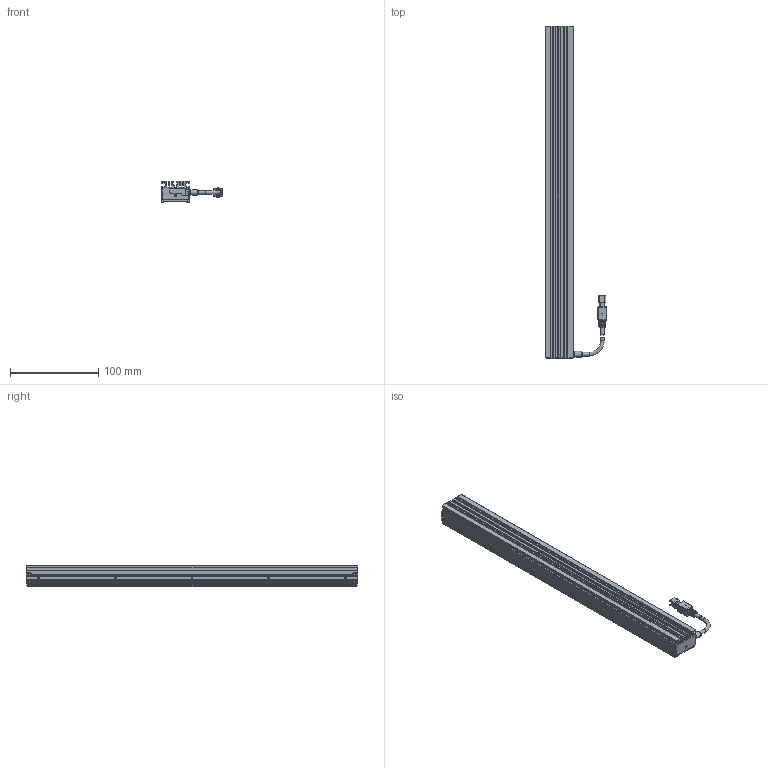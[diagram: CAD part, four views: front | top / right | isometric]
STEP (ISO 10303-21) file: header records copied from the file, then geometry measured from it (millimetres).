
FILE_DESCRIPTION (( 'STEP AP203' ), '1' );
FILE_NAME ('OPT-ULI37632-UV-V1.0 U尨砩芞.STEP', '2024-12-11T02:52:32', ( '' ), ( '' ), 'SwSTEP 2.0', 'SolidWorks 2016', '' );
FILE_SCHEMA (( 'CONFIG_CONTROL_DESIGN' ));
Length unit declared in the file: millimetre
Products named in the file (1): OPT-ULI37632-UV-V1.0 U尨砩芞
Bounding box: 69.6 x 376 x 24 mm (x, y, z)
Volume: 226420.1 mm3; surface area: 93366.1 mm2
Topology: 5 solids, 15 shells, 627 faces, 1610 edges, 1040 vertices
Faces by surface type: plane 434, cylinder 138, cone 30, bspline 17, torus 8
Full cylindrical faces by diameter (mm): 1.1 x2, 1.4 x4, 1.6 x9, 2 x17, 2.4 x7, 2.5 x2, 2.6 x2, 3 x2, 4.1 x4, 6.5 x1, 7 x1, 7.5 x1
Entity records: 18977 total; most frequent: CARTESIAN_POINT 4291, ORIENTED_EDGE 2988, DIRECTION 2911, EDGE_CURVE 1494, VECTOR 1043, LINE 1043, VERTEX_POINT 1006, AXIS2_PLACEMENT_3D 934
